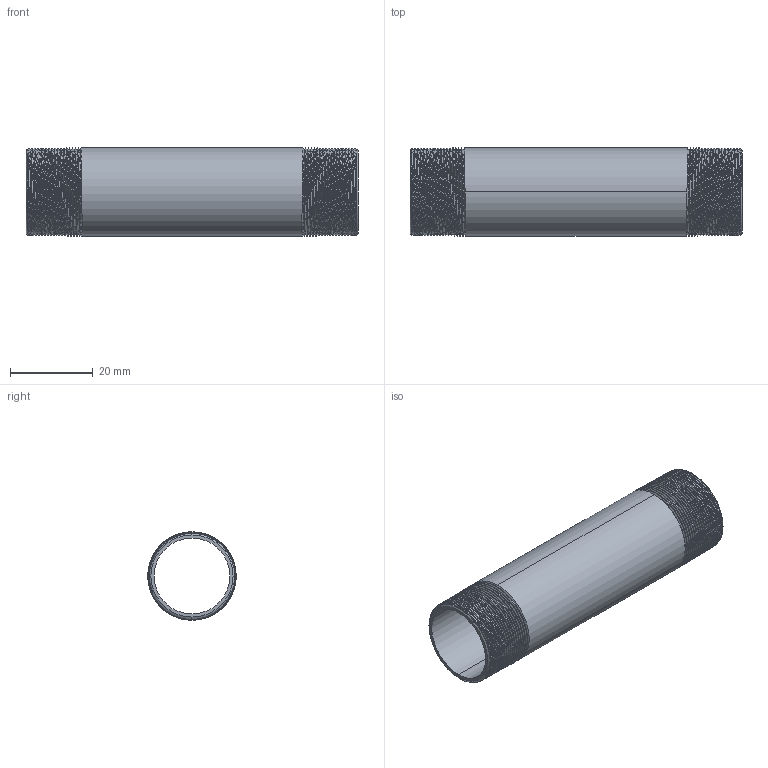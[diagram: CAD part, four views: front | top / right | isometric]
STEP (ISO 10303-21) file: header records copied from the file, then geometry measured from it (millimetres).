
FILE_DESCRIPTION (( 'STEP AP203' ), '1' );
FILE_NAME ('3D_R210_1-2x80_17185730.STEP', '2024-08-16T11:18:23', ( '' ), ( '' ), 'SwSTEP 2.0', 'SolidWorks 2024', '' );
FILE_SCHEMA (( 'CONFIG_CONTROL_DESIGN' ));
Length unit declared in the file: millimetre
Products named in the file (1): 3D_R210_1-2x80_17185730
Bounding box: 80 x 21.28 x 21.3 mm (x, y, z)
Volume: 7078.2 mm3; surface area: 10860.7 mm2
Topology: 1 solids, 1 shells, 94 faces, 268 edges, 176 vertices
Faces by surface type: cone 80, bspline 6, cylinder 4, plane 4
Entity records: 14219 total; most frequent: CARTESIAN_POINT 12053, ORIENTED_EDGE 536, DIRECTION 286, EDGE_CURVE 268, VERTEX_POINT 176, B_SPLINE_CURVE_WITH_KNOTS 164, AXIS2_PLACEMENT_3D 101, EDGE_LOOP 96
